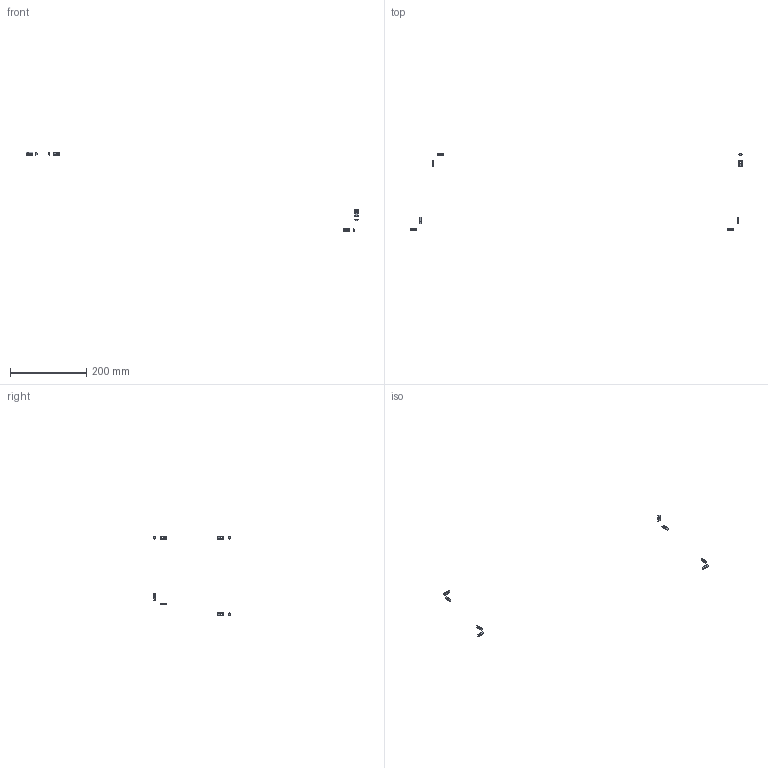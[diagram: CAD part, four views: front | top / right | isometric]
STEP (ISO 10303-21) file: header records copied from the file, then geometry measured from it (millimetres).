
FILE_DESCRIPTION(/* description */ (''),/* implementation_level */ '2;1');
FILE_NAME(/* name */ '3.frame-top#3.6#HNTPZ5-5',/* time_stamp */ '2014-12-01T20:12:22+01:00',/* author */ (''),/* organization */ (''),/* preprocessor_version */ 'ST-DEVELOPER v14',/* originating_system */ '',/* authorisation */ '');
FILE_SCHEMA (('AUTOMOTIVE_DESIGN'));
Length unit declared in the file: millimetre
Products named in the file (2): Document; nut tslot, post, M5
Assembly tree (6 placements, depth 2):
  Document
    nut tslot, post, M5  x6
Bounding box: 868.15 x 200.4 x 208.3 mm (x, y, z)
Volume: 2520.1 mm3; surface area: 3356.1 mm2
Topology: 8 solids, 8 shells, 104 faces, 288 edges, 192 vertices
Faces by surface type: plane 88, bspline 16
Entity records: 2945 total; most frequent: CARTESIAN_POINT 1377, B_SPLINE_CURVE_WITH_KNOTS 300, ORIENTED_EDGE 216, PCURVE 216, DEFINITIONAL_REPRESENTATION 216, SURFACE_CURVE 108, EDGE_CURVE 108, VERTEX_POINT 72
